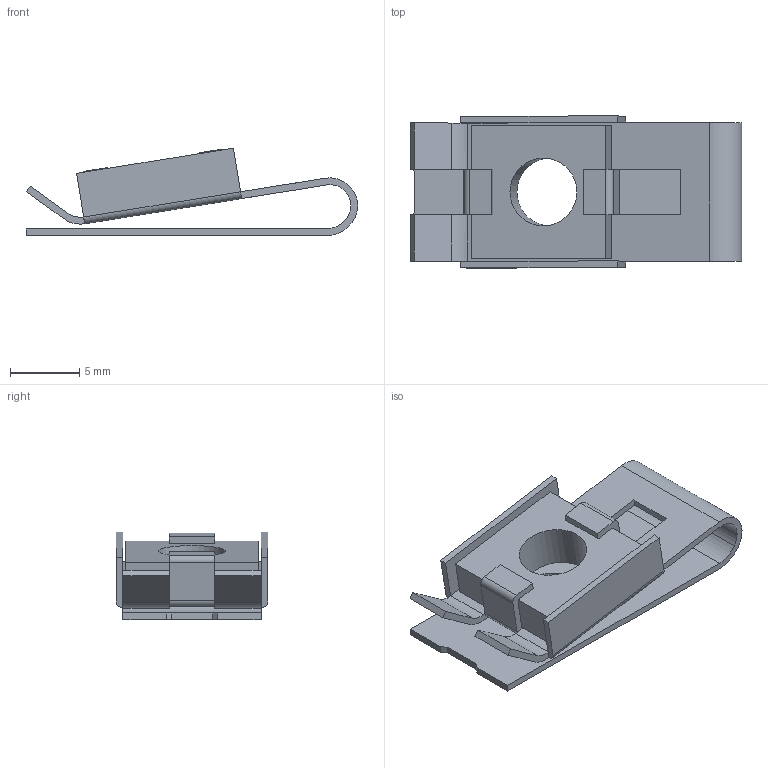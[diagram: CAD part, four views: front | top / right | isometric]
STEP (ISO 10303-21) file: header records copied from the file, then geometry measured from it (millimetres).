
FILE_DESCRIPTION(/* description */ ('Unknown'),/* implementation_level */ '2;1');
FILE_NAME(/* name */ '238424',/* time_stamp */ '2024-04-20T11:03:17+08:00',/* author */ ('Unknown'),/* organization */ ('Unknown'),/* preprocessor_version */ 'ST-DEVELOPER v16.7',/* originating_system */ 'Solid Edge',/* authorisation */ 'Unknown');
FILE_SCHEMA (('AUTOMOTIVE_DESIGN {1 0 10303 214 3 1 1}'));
Length unit declared in the file: millimetre
Products named in the file (1): FBR-01169-CP-A1
Bounding box: 24 x 11 x 6.35 mm (x, y, z)
Volume: 466.5 mm3; surface area: 1309.6 mm2
Topology: 1 solids, 1 shells, 72 faces, 191 edges, 122 vertices
Faces by surface type: plane 54, cylinder 18
Full cylindrical faces by diameter (mm): 4.917 x1, 7 x1
Entity records: 2717 total; most frequent: CARTESIAN_POINT 386, ORIENTED_EDGE 374, DIRECTION 367, EDGE_CURVE 187, LINE 149, VECTOR 149, VERTEX_POINT 120, AXIS2_PLACEMENT_3D 109
